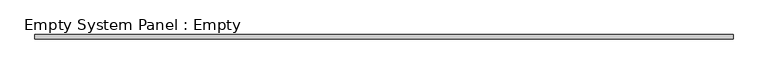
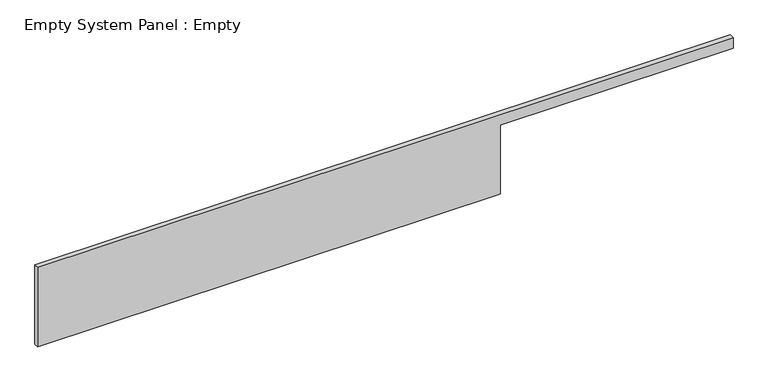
"""IFC4 building model written with IfcOpenShell, lengths in millimetres: plate geometry, Empty System Panel : Empty."""

from ifc_helpers import new_model, si_unit, frame, origin, place, context, project, spatial, polyline, outline, extrude, source, transform, mapped, element, save


def empty_system_panel_empty_4ee4dad1(model_context):
    return source(origin(), model_context, "Body", "SweptSolid", [
        extrude(outline(polyline([(0.0, -7625.0), (0.0, 2525.0), (1592.6201878, 2525.0), (1592.6201878, 7625.0), (1843.8364056, 7625.0), (1843.8364056, -7625.0), (0.0, -7625.0)])), frame((0.0, -50.0, 0.0), z_axis=(0.0, 1.0, 0.0), x_axis=(0.0, 0.0, 1.0)), (0.0, 0.0, 1.0), 100.0),
    ])


if __name__ == "__main__":
    model = new_model("IFC4")
    model_context = context("Model", 3, world=origin())
    ifc_project = project(units=[si_unit("LENGTHUNIT", "METRE", prefix="MILLI")], contexts=[model_context])
    site = spatial("IfcSite", under=ifc_project)
    building = spatial("IfcBuilding", under=site)
    placement = place(None, origin())
    empty_system_panel_empty_shape = empty_system_panel_empty_4ee4dad1(model_context)
    element("IfcPlate", 1, ObjectType="Empty System Panel : Empty", at=placement, inside=building, context=model_context, shape_type="MappedRepresentation", body=[
        mapped(empty_system_panel_empty_shape, transform((0.0, 0.0, 0.0), x_axis=(1.0, 0.0, 0.0), y_axis=(0.0, 1.0, 0.0), z_axis=(0.0, 0.0, 1.0))),
    ])
    save(model, "model.ifc")
